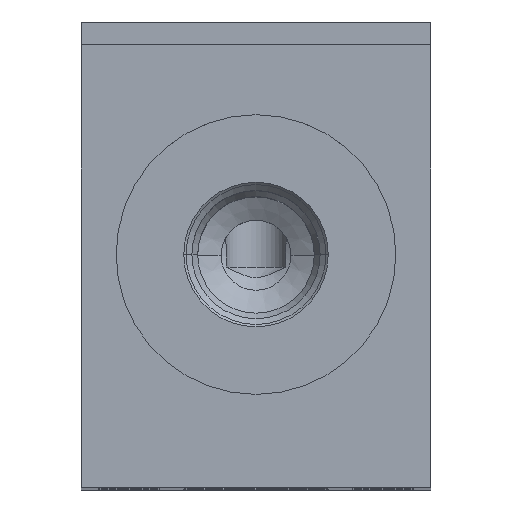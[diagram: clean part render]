
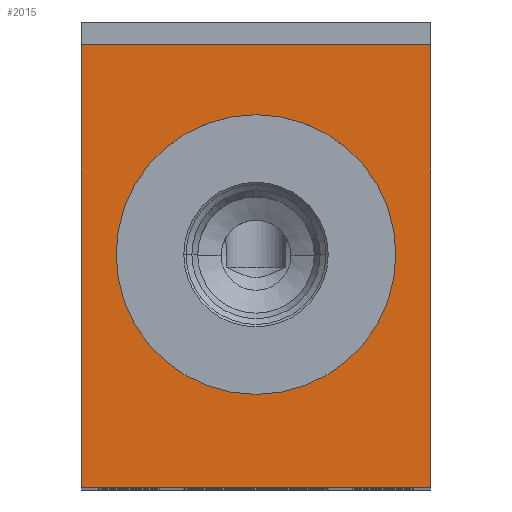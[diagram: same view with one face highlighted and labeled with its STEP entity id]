
A CAD part, top view. The second image highlights one B-rep face of the part: STEP entity #2015.
In plain terms, the highlighted planar face has unit normal (0, 0, 1).
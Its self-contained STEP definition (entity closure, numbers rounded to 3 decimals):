
#106=DIRECTION('',(1.,0.,0.));
#107=VECTOR('',#106,30.);
#108=CARTESIAN_POINT('',(0.,38.,116.));
#109=LINE('',#108,#107);
#113=DIRECTION('',(0.,1.,0.));
#114=VECTOR('',#113,38.);
#115=CARTESIAN_POINT('',(30.,0.,116.));
#116=LINE('',#115,#114);
#120=DIRECTION('',(1.,0.,0.));
#121=VECTOR('',#120,30.);
#122=CARTESIAN_POINT('',(0.,0.,116.));
#123=LINE('',#122,#121);
#127=DIRECTION('',(0.,-1.,0.));
#128=VECTOR('',#127,38.);
#129=CARTESIAN_POINT('',(0.,38.,116.));
#130=LINE('',#129,#128);
#134=CARTESIAN_POINT('',(15.,20.,116.));
#135=DIRECTION('',(0.,0.,-1.));
#136=DIRECTION('',(1.,0.,0.));
#137=AXIS2_PLACEMENT_3D('',#134,#135,#136);
#142=CARTESIAN_POINT('',(15.,20.,116.));
#143=DIRECTION('',(0.,0.,-1.));
#144=DIRECTION('',(-1.,0.,0.));
#145=AXIS2_PLACEMENT_3D('',#142,#143,#144);
#1690=CARTESIAN_POINT('',(0.,0.,116.));
#1691=CARTESIAN_POINT('',(30.,0.,116.));
#1692=VERTEX_POINT('',#1690);
#1693=VERTEX_POINT('',#1691);
#1698=CARTESIAN_POINT('',(0.,38.,116.));
#1699=CARTESIAN_POINT('',(30.,38.,116.));
#1700=VERTEX_POINT('',#1698);
#1701=VERTEX_POINT('',#1699);
#1774=CARTESIAN_POINT('',(27.,20.,116.));
#1775=VERTEX_POINT('',#1774);
#1776=CARTESIAN_POINT('',(3.,20.,116.));
#1777=VERTEX_POINT('',#1776);
#1996=CARTESIAN_POINT('',(0.,0.,116.));
#1997=DIRECTION('',(0.,0.,1.));
#1998=DIRECTION('',(1.,0.,0.));
#1999=AXIS2_PLACEMENT_3D('',#1996,#1997,#1998);
#2000=PLANE('',#1999);
#2001=ORIENTED_EDGE('',*,*,#1974,.T.);
#2002=ORIENTED_EDGE('',*,*,#1952,.F.);
#2004=ORIENTED_EDGE('',*,*,#2003,.F.);
#2006=ORIENTED_EDGE('',*,*,#2005,.F.);
#2007=EDGE_LOOP('',(#2001,#2002,#2004,#2006));
#2008=FACE_OUTER_BOUND('',#2007,.F.);
#2010=ORIENTED_EDGE('',*,*,#2009,.F.);
#2012=ORIENTED_EDGE('',*,*,#2011,.F.);
#2013=EDGE_LOOP('',(#2010,#2012));
#2014=FACE_BOUND('',#2013,.F.);
#138=CIRCLE('',#137,12.);
#146=CIRCLE('',#145,12.);
#1952=EDGE_CURVE('',#1693,#1701,#116,.T.);
#1974=EDGE_CURVE('',#1700,#1701,#109,.T.);
#2003=EDGE_CURVE('',#1692,#1693,#123,.T.);
#2005=EDGE_CURVE('',#1700,#1692,#130,.T.);
#2009=EDGE_CURVE('',#1775,#1777,#138,.T.);
#2011=EDGE_CURVE('',#1777,#1775,#146,.T.);
#2015=ADVANCED_FACE('',(#2008,#2014),#2000,.T.);
